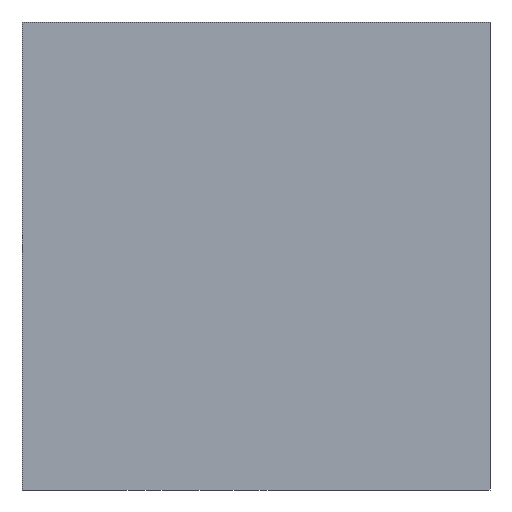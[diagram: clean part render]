
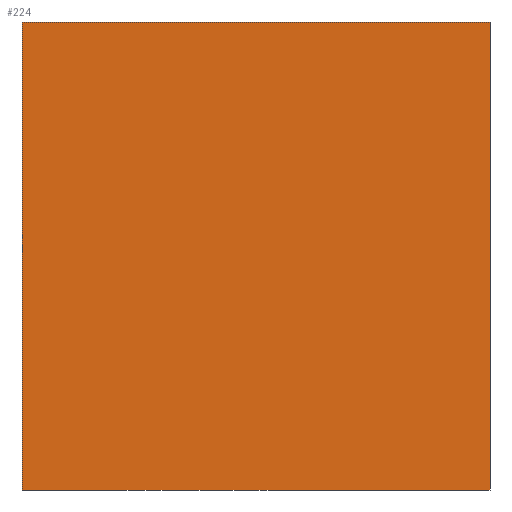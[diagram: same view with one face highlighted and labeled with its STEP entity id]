
A CAD part, left-side view. The second image highlights one B-rep face of the part: STEP entity #224.
In plain terms, the highlighted planar face has unit normal (-1, 0, 0).
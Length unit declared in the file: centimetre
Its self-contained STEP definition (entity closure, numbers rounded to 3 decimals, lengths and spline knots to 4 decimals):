
#40 = CARTESIAN_POINT ( 'NONE',  ( 0., 0., 0. ) ) ;
#79 = ORIENTED_EDGE ( 'NONE', *, *, #931, .T. ) ;
#156 = LINE ( 'NONE', #163, #760 ) ;
#159 = CARTESIAN_POINT ( 'NONE',  ( 0., 1000., 1000. ) ) ;
#163 = CARTESIAN_POINT ( 'NONE',  ( 0., 0., 1000. ) ) ;
#224 = ADVANCED_FACE ( 'NONE', ( #265 ), #427, .F. ) ;
#265 = FACE_OUTER_BOUND ( 'NONE', #1020, .T. ) ;
#321 = VERTEX_POINT ( 'NONE', #40 ) ;
#324 = DIRECTION ( 'NONE',  ( 0., 0., -1. ) ) ;
#336 = LINE ( 'NONE', #159, #349 ) ;
#349 = VECTOR ( 'NONE', #324, 100. ) ;
#351 = DIRECTION ( 'NONE',  ( 1., 0., 0. ) ) ;
#365 = AXIS2_PLACEMENT_3D ( 'NONE', #507, #351, #679 ) ;
#371 = VERTEX_POINT ( 'NONE', #613 ) ;
#399 = DIRECTION ( 'NONE',  ( 0., 0., -1. ) ) ;
#427 = PLANE ( 'NONE',  #365 ) ;
#465 = CARTESIAN_POINT ( 'NONE',  ( 0., 1000., 1000. ) ) ;
#495 = DIRECTION ( 'NONE',  ( 0., -1., 0. ) ) ;
#499 = CARTESIAN_POINT ( 'NONE',  ( 0., 1000., 0. ) ) ;
#507 = CARTESIAN_POINT ( 'NONE',  ( 0., 1000., 1000. ) ) ;
#529 = CARTESIAN_POINT ( 'NONE',  ( 0., 0., 1000. ) ) ;
#605 = LINE ( 'NONE', #465, #678 ) ;
#613 = CARTESIAN_POINT ( 'NONE',  ( 0., 1000., 0. ) ) ;
#616 = EDGE_CURVE ( 'NONE', #866, #999, #605, .T. ) ;
#678 = VECTOR ( 'NONE', #791, 100. ) ;
#679 = DIRECTION ( 'NONE',  ( 0., 0., -1. ) ) ;
#750 = EDGE_CURVE ( 'NONE', #999, #321, #156, .T. ) ;
#760 = VECTOR ( 'NONE', #399, 100. ) ;
#791 = DIRECTION ( 'NONE',  ( 0., -1., 0. ) ) ;
#800 = EDGE_CURVE ( 'NONE', #371, #321, #814, .T. ) ;
#801 = CARTESIAN_POINT ( 'NONE',  ( 0., 1000., 1000. ) ) ;
#814 = LINE ( 'NONE', #499, #899 ) ;
#860 = ORIENTED_EDGE ( 'NONE', *, *, #750, .F. ) ;
#863 = ORIENTED_EDGE ( 'NONE', *, *, #800, .T. ) ;
#866 = VERTEX_POINT ( 'NONE', #801 ) ;
#899 = VECTOR ( 'NONE', #495, 100. ) ;
#931 = EDGE_CURVE ( 'NONE', #866, #371, #336, .T. ) ;
#949 = ORIENTED_EDGE ( 'NONE', *, *, #616, .F. ) ;
#999 = VERTEX_POINT ( 'NONE', #529 ) ;
#1020 = EDGE_LOOP ( 'NONE', ( #863, #860, #949, #79 ) ) ;
